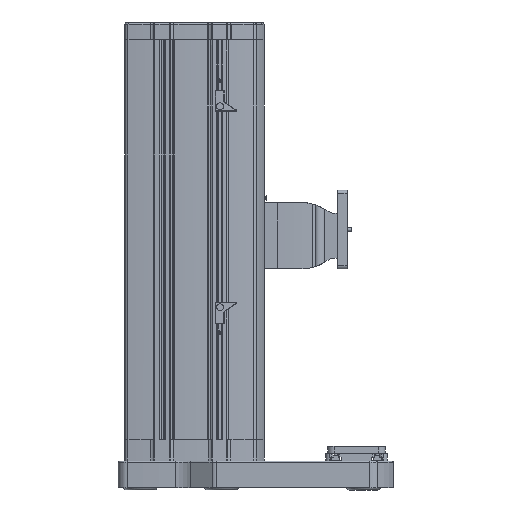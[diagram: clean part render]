
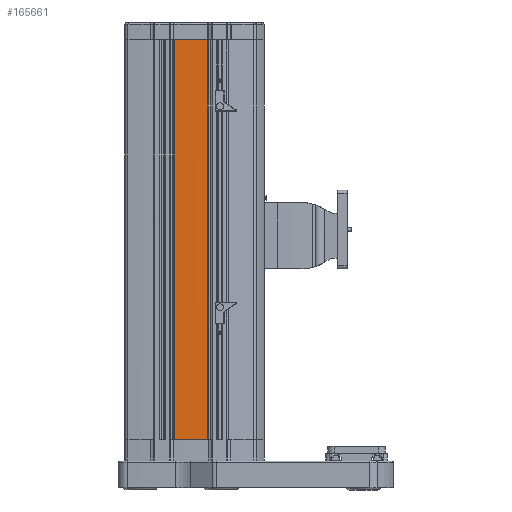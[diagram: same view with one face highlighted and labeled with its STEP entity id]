
A CAD part, left-side view. The second image highlights one B-rep face of the part: STEP entity #165661.
In plain terms, the highlighted cylindrical face has radius 887.984 mm (diameter 1775.97 mm), a partial arc.
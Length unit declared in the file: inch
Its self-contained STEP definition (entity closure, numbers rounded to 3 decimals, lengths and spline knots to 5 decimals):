
#77678=CARTESIAN_POINT('',(102.04442,-75.73704,-25.13782));
#77679=VERTEX_POINT('',#77678);
#77687=CARTESIAN_POINT('',(102.04447,-73.30986,-25.13782));
#77688=VERTEX_POINT('',#77687);
#77689=CARTESIAN_POINT('',(136.98337,-74.5241,-25.13782));
#77690=DIRECTION('',(0.,0.,-1.));
#77691=DIRECTION('',(-1.,0.,0.));
#77692=AXIS2_PLACEMENT_3D('',#77689,#77690,#77691);
#77693=CIRCLE('',#77692,34.96);
#77694=EDGE_CURVE('',#77679,#77688,#77693,.T.);
#145089=CARTESIAN_POINT('',(102.04442,-75.73704,3.85218));
#145090=VERTEX_POINT('',#145089);
#145098=CARTESIAN_POINT('',(102.04442,-75.73704,-25.13782));
#145099=DIRECTION('',(0.0,0.0,1.0));
#145100=VECTOR('',#145099,28.99);
#145101=LINE('',#145098,#145100);
#145102=EDGE_CURVE('',#77679,#145090,#145101,.T.);
#145409=CARTESIAN_POINT('',(102.02337,-74.52345,3.85218));
#145410=VERTEX_POINT('',#145409);
#145419=CARTESIAN_POINT('',(136.98337,-74.5241,3.85218));
#145420=DIRECTION('',(0.,0.,-1.));
#145421=DIRECTION('',(-1.,0.,0.));
#145422=AXIS2_PLACEMENT_3D('',#145419,#145420,#145421);
#145423=CIRCLE('',#145422,34.96);
#145424=EDGE_CURVE('',#145090,#145410,#145423,.T.);
#159679=CARTESIAN_POINT('',(102.02337,-74.52345,3.86218));
#159680=VERTEX_POINT('',#159679);
#159687=CARTESIAN_POINT('',(102.02337,-74.52345,3.86218));
#159688=DIRECTION('',(0.0,0.0,-1.0));
#159689=VECTOR('',#159688,0.01);
#159690=LINE('',#159687,#159689);
#159691=EDGE_CURVE('',#159680,#145410,#159690,.T.);
#165622=CARTESIAN_POINT('',(102.04447,-73.30986,3.86218));
#165623=VERTEX_POINT('',#165622);
#165624=CARTESIAN_POINT('',(102.04447,-73.30986,-25.13782));
#165625=DIRECTION('',(0.0,0.0,1.0));
#165626=VECTOR('',#165625,29.);
#165627=LINE('',#165624,#165626);
#165628=EDGE_CURVE('',#77688,#165623,#165627,.T.);
#165642=CARTESIAN_POINT('',(136.98337,-74.5241,-25.13782));
#165643=DIRECTION('',(0.,0.,1.0));
#165644=DIRECTION('',(-1.,0.,0.));
#165645=AXIS2_PLACEMENT_3D('',#165642,#165643,#165644);
#165646=CYLINDRICAL_SURFACE('',#165645,34.96);
#165647=ORIENTED_EDGE('',*,*,#159691,.F.);
#165648=CARTESIAN_POINT('',(136.98337,-74.5241,3.86218));
#165649=DIRECTION('',(0.,0.,1.));
#165650=DIRECTION('',(-1.,0.,0.));
#165651=AXIS2_PLACEMENT_3D('',#165648,#165649,#165650);
#165652=CIRCLE('',#165651,34.96);
#165653=EDGE_CURVE('',#165623,#159680,#165652,.T.);
#165654=ORIENTED_EDGE('',*,*,#165653,.F.);
#165655=ORIENTED_EDGE('',*,*,#165628,.F.);
#165656=ORIENTED_EDGE('',*,*,#77694,.F.);
#165657=ORIENTED_EDGE('',*,*,#145102,.T.);
#165658=ORIENTED_EDGE('',*,*,#145424,.T.);
#165659=EDGE_LOOP('',(#165647,#165654,#165655,#165656,#165657,#165658));
#165660=FACE_OUTER_BOUND('',#165659,.T.);
#165661=ADVANCED_FACE('',(#165660),#165646,.T.);
